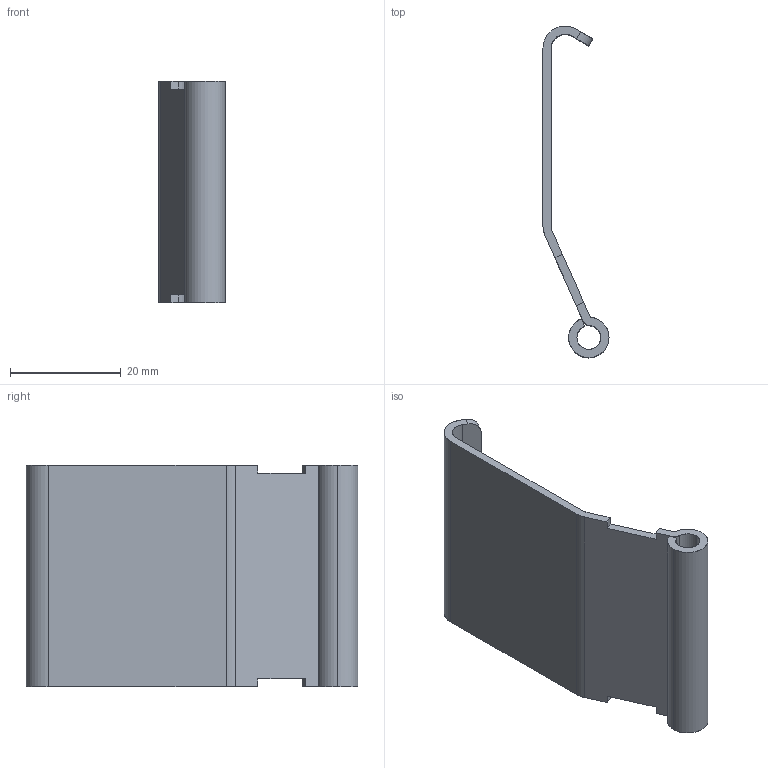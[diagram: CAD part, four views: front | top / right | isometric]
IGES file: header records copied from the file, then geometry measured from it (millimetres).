
Start section: SolidWorks IGES FILE using analytic representation for surfaces
Global section: file name: C:\Documents and Settings\lecoutey\Bureau\GE 1040\40.030.00.IGS; native system: SolidWorks 2004 by SolidWorks Corporation; preprocessor: Version 5.3; author: lecoutey; date: 050330.085520; units: millimetre
Bounding box: 11.95 x 60 x 40 mm (x, y, z)
Surface area: 6582.3 mm2 (no closed solid volume)
Topology: 0 solids, 0 shells, 31 faces, 348 edges, 348 vertices
Faces by surface type: bspline 18, revolution 13
